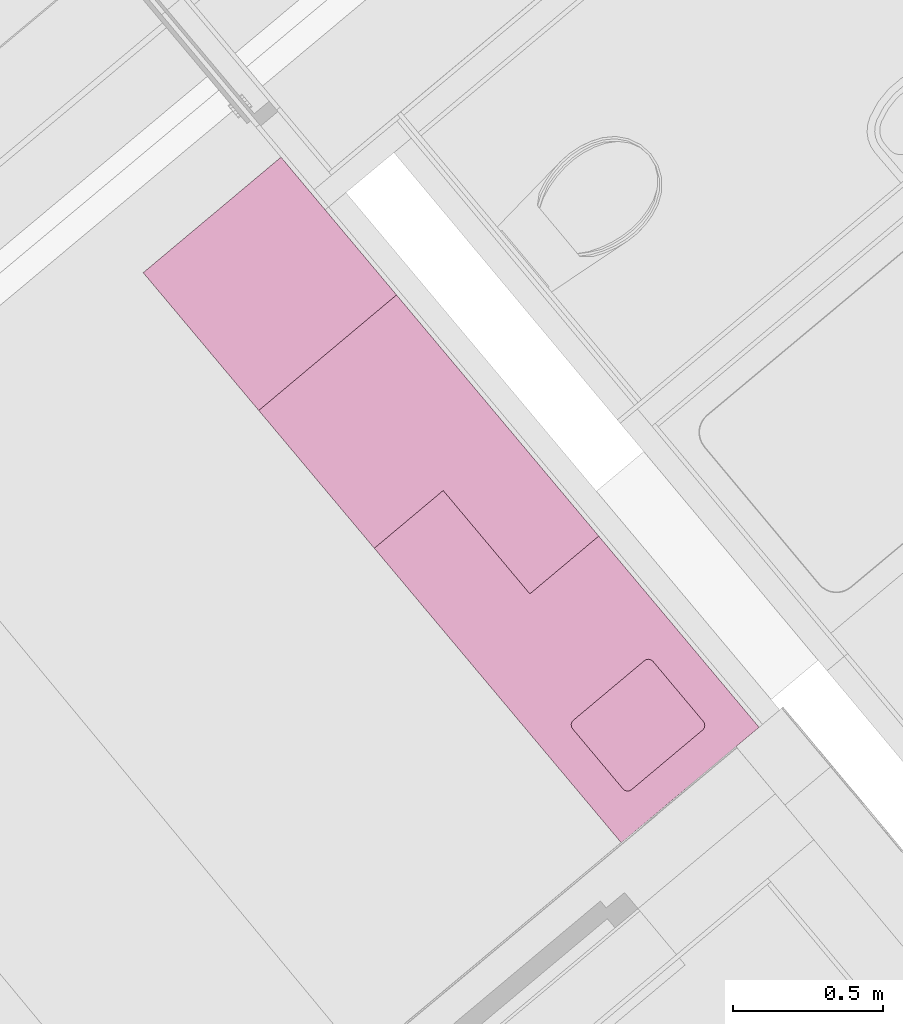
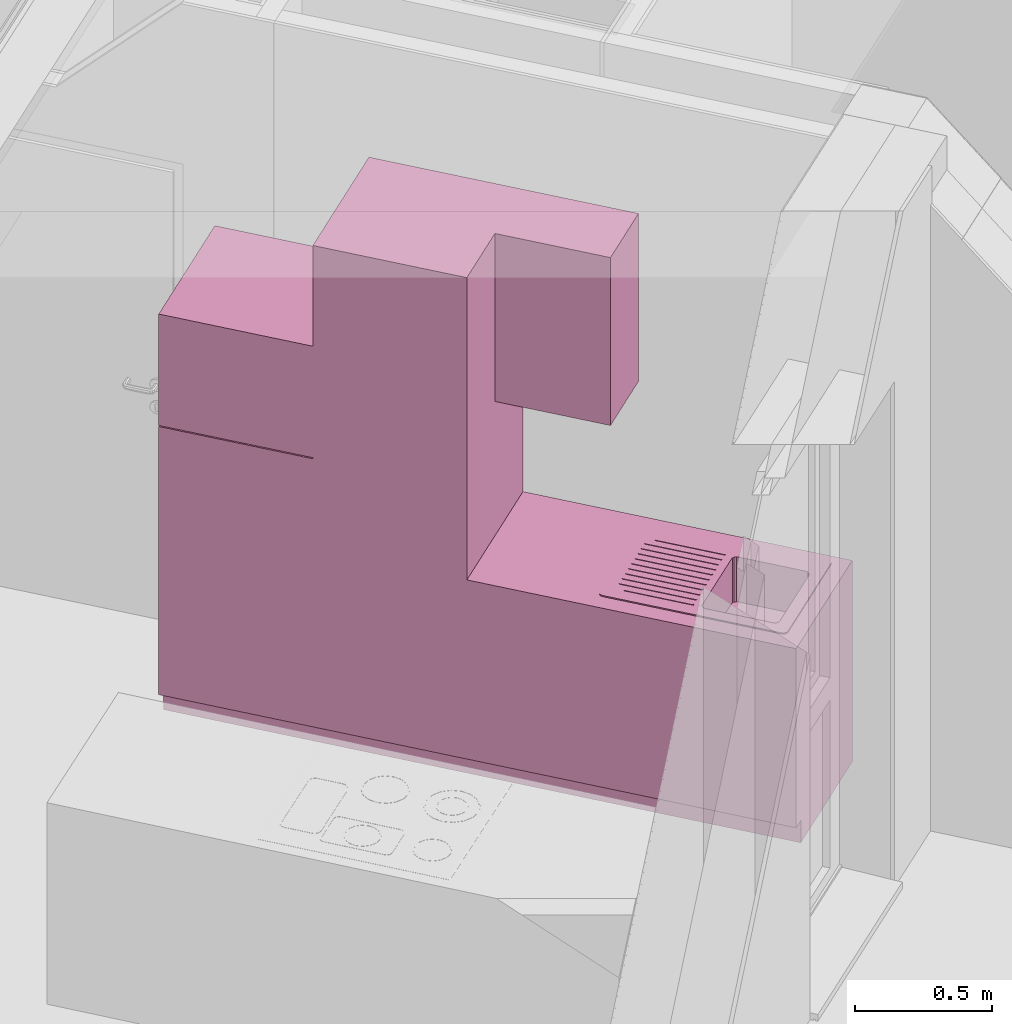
# One storey, part 50 of 50: 1 furniture element.
"""IFC4 building model written with IfcOpenShell, lengths in metres."""

from ifc_helpers import new_model, entity, si_unit, converted_unit, derived_unit, direction, frame, origin_with_axes, place, context, subcontext, project, spatial, polygons, type_object, element, save


model = new_model("IFC4")

# Units and contexts
model_context = context("Model", 3, precision=1e-05, world=origin_with_axes(), true_north=direction((0.0, 1.0)))
body_context = subcontext(model_context, "Body", "Model", "MODEL_VIEW")
ifc_project = project(units=[si_unit("LENGTHUNIT", "METRE"), si_unit("AREAUNIT", "SQUARE_METRE"), si_unit("VOLUMEUNIT", "CUBIC_METRE"), converted_unit("PLANEANGLEUNIT", "DEGREE", entity("IfcPlaneAngleMeasure", 0.0174532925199), si_unit("PLANEANGLEUNIT", "RADIAN"), dimensions=[0, 0, 0, 0, 0, 0, 0]), converted_unit("TIMEUNIT", "Year", entity("IfcTimeMeasure", 31556926.0), si_unit("TIMEUNIT", "SECOND"), dimensions=[0, 0, 1, 0, 0, 0, 0]), si_unit("MASSUNIT", "GRAM", prefix="KILO"), si_unit("THERMODYNAMICTEMPERATUREUNIT", "DEGREE_CELSIUS"), si_unit("LUMINOUSINTENSITYUNIT", "LUMEN"), si_unit("ENERGYUNIT", "JOULE", prefix="MEGA"), derived_unit("THERMALCONDUCTANCEUNIT", [(si_unit("POWERUNIT", "WATT"), 1), (si_unit("LENGTHUNIT", "METRE"), -1), (si_unit("THERMODYNAMICTEMPERATUREUNIT", "KELVIN"), -1)]), derived_unit("SPECIFICHEATCAPACITYUNIT", [(si_unit("ENERGYUNIT", "JOULE"), 1), (si_unit("MASSUNIT", "GRAM", prefix="KILO"), -1), (si_unit("THERMODYNAMICTEMPERATUREUNIT", "KELVIN"), -1)]), derived_unit("MASSDENSITYUNIT", [(si_unit("MASSUNIT", "GRAM", prefix="KILO"), 1), (si_unit("VOLUMEUNIT", "CUBIC_METRE"), -1)])], contexts=[model_context])

# Site, building, storey, space
site_placement = place(None, frame((-0.00153261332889, -0.00661245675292, 0.0), z_axis=(0.0, 0.0, 1.0), x_axis=(1.0, 0.0, 0.0)))
site = spatial("IfcSite", under=ifc_project, at=site_placement, Name="Gelände", CompositionType="ELEMENT")
building_placement = place(site_placement, origin_with_axes())
building = spatial("IfcBuilding", under=site, at=building_placement, Name="Gebäude", CompositionType="ELEMENT")
storey_placement = place(building_placement, frame((0.0, 0.0, 8.66), z_axis=(0.0, 0.0, 1.0), x_axis=(1.0, 0.0, 0.0)))
storey = spatial("IfcBuildingStorey", under=building, at=storey_placement, Name="DG2", CompositionType="ELEMENT", Elevation=8.66)
space_placement = place(storey_placement, frame((-3.1056460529, 21.2099336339, 0.22), z_axis=(0.0, 0.0, 1.0), x_axis=(-0.767365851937, -0.641209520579, 0.0)))
space = spatial("IfcSpace", under=storey, at=space_placement, CompositionType="ELEMENT", PredefinedType="NOTDEFINED")

# Furniture
furniture_type = type_object("IfcFurnitureType", Name="Konzeptküche 26", AssemblyPlace="NOTDEFINED", PredefinedType="NOTDEFINED")
furniture_placement = place(space_placement, frame((-2.13344483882, 3.826527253, 0.0), z_axis=(0.0, 0.0, 1.0), x_axis=(0.00175145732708, -0.999998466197, 0.0)))
element("IfcFurniture", 1, at=furniture_placement, inside=space, type_object=furniture_type, Name="Objekt-0002", PredefinedType="NOTDEFINED", context=body_context, shape_type="Tessellation", body=[
    polygons([(-0.968323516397, 0.0, 0.0), (-0.968323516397, 0.0, 0.1), (-2.25087457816, 0.0, 0.1), (-2.25087457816, 0.0, 0.0), (-0.968323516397, 0.55, 0.0), (-0.968323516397, 0.55, 0.1), (-2.25087457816, 0.55, 0.1), (-2.25087457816, 0.55, 0.0)], [[[1, 2, 3, 4]], [[5, 6, 2, 1]], [[2, 6, 7, 3]], [[4, 3, 7, 8]], [[1, 4, 8, 5]], [[8, 7, 6, 5]]], closed=True),
    polygons([(-0.968323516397, 0.6, 0.85), (-0.968323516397, 0.0, 0.85), (-2.25087457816, 0.0, 0.85), (-2.25087457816, 0.6, 0.85), (-1.47757109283, 0.0549999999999, 0.85), (-1.47757109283, 0.505, 0.85), (-2.16180630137, 0.505, 0.85), (-2.16180630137, 0.0549999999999, 0.85), (-0.968323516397, 0.6, 0.9), (-0.968323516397, 0.0, 0.9), (-2.25087457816, 0.0, 0.9), (-2.25087457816, 0.6, 0.9), (-1.47757109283, 0.505, 0.9), (-1.47757109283, 0.0549999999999, 0.9), (-2.16180630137, 0.505, 0.9), (-2.16180630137, 0.0549999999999, 0.9)], [[[1, 2, 3, 4], [5, 6, 7, 8]], [[2, 1, 9, 10]], [[3, 2, 10, 11]], [[4, 3, 11, 12]], [[1, 4, 12, 9]], [[13, 6, 5, 14]], [[15, 7, 6, 13]], [[16, 8, 7, 15]], [[14, 5, 8, 16]], [[11, 10, 9, 12], [14, 16, 15, 13]]], closed=True),
    polygons([(-0.968323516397, 0.6, 0.1), (-0.968323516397, 0.0, 0.1), (-2.25087457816, 0.0, 0.1), (-2.25087457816, 0.6, 0.1), (-1.47757109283, 0.0549999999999, 0.1), (-1.47757109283, 0.505, 0.1), (-2.16180630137, 0.505, 0.1), (-2.16180630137, 0.0549999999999, 0.1), (-0.968323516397, 0.6, 0.85), (-0.968323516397, 0.0, 0.85), (-2.25087457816, 0.0, 0.85), (-2.25087457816, 0.6, 0.85), (-1.47757109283, 0.505, 0.85), (-1.47757109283, 0.0549999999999, 0.85), (-2.16180630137, 0.505, 0.85), (-2.16180630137, 0.0549999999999, 0.85)], [[[1, 2, 3, 4], [5, 6, 7, 8]], [[2, 1, 9, 10]], [[3, 2, 10, 11]], [[4, 3, 11, 12]], [[1, 4, 12, 9]], [[13, 6, 5, 14]], [[15, 7, 6, 13]], [[16, 8, 7, 15]], [[14, 5, 8, 16]], [[11, 10, 9, 12], [14, 16, 15, 13]]], closed=True),
    polygons([(-0.968323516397, 0.0, 1.5), (-0.968323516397, 0.0, 2.25), (-1.4183235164, 0.0, 2.25), (-1.4183235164, 0.0, 1.5), (-0.968323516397, 0.3, 1.5), (-0.968323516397, 0.3, 2.25), (-1.4183235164, 0.3, 2.25), (-1.4183235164, 0.3, 1.5)], [[[1, 2, 3, 4]], [[5, 6, 2, 1]], [[2, 6, 7, 3]], [[4, 3, 7, 8]], [[1, 4, 8, 5]], [[8, 7, 6, 5]]], closed=True),
    polygons([(-0.368323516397, 0.52, 0.0), (-0.368323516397, 0.52, 0.1), (-0.368323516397, 0.55, 0.1), (-0.368323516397, 0.55, 0.0), (0.231676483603, 0.52, 0.0), (0.231676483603, 0.52, 0.1), (0.231676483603, 0.55, 0.1), (0.231676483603, 0.55, 0.0)], [[[1, 2, 3, 4]], [[5, 6, 2, 1]], [[2, 6, 7, 3]], [[4, 3, 7, 8]], [[1, 4, 8, 5]], [[8, 7, 6, 5]]], closed=True),
    polygons([(-0.368323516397, 0.52, 0.0), (-0.368323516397, 0.52, 1.8), (0.231676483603, 0.52, 1.8), (0.231676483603, 0.52, 0.0), (-0.368323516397, 0.0, 0.0), (-0.368323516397, 0.0, 1.8), (0.231676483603, 0.0, 1.8), (0.231676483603, 0.0, 0.0)], [[[1, 2, 3, 4]], [[5, 6, 2, 1]], [[2, 6, 7, 3]], [[4, 3, 7, 8]], [[1, 4, 8, 5]], [[8, 7, 6, 5]]], closed=True),
    polygons([(-0.368323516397, 0.5199, 0.1), (-0.368323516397, 0.5199, 1.2975), (-0.368323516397, 0.6, 1.2975), (-0.368323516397, 0.6, 0.1), (0.231676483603, 0.5199, 0.1), (0.231676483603, 0.5199, 1.2975), (0.231676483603, 0.6, 1.2975), (0.231676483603, 0.6, 0.1)], [[[1, 2, 3, 4]], [[5, 6, 2, 1]], [[2, 6, 7, 3]], [[4, 3, 7, 8]], [[1, 4, 8, 5]], [[8, 7, 6, 5]]], closed=True),
    polygons([(-0.368323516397, 0.5199, 1.3025), (-0.368323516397, 0.5199, 1.8), (-0.368323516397, 0.6, 1.8), (-0.368323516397, 0.6, 1.3025), (0.231676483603, 0.5199, 1.3025), (0.231676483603, 0.5199, 1.8), (0.231676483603, 0.6, 1.8), (0.231676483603, 0.6, 1.3025)], [[[1, 2, 3, 4]], [[5, 6, 2, 1]], [[2, 6, 7, 3]], [[4, 3, 7, 8]], [[1, 4, 8, 5]], [[8, 7, 6, 5]]], closed=True),
    polygons([(-2.11680630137, 0.48, 0.705), (-2.11680630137, 0.48, 0.9), (-1.8546886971, 0.48, 0.9), (-1.8546886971, 0.48, 0.705), (-2.12445997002, 0.47847759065, 0.705), (-2.12445997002, 0.47847759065, 0.9), (-1.84703502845, 0.47847759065, 0.9), (-1.84703502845, 0.47847759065, 0.705), (-1.84054656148, 0.474142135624, 0.705), (-1.83621110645, 0.467653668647, 0.705), (-1.8346886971, 0.46, 0.705), (-1.8346886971, 0.15, 0.705), (-1.83621110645, 0.142346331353, 0.705), (-1.84054656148, 0.135857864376, 0.705), (-1.84703502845, 0.13152240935, 0.705), (-1.8546886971, 0.13, 0.705), (-2.11680630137, 0.13, 0.705), (-2.12445997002, 0.13152240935, 0.705), (-2.130948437, 0.135857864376, 0.705), (-2.13528389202, 0.142346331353, 0.705), (-2.13680630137, 0.15, 0.705), (-2.13680630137, 0.46, 0.705), (-2.13528389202, 0.467653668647, 0.705), (-2.130948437, 0.474142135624, 0.705), (-2.130948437, 0.474142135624, 0.9), (-1.84054656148, 0.474142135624, 0.9), (-1.83621110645, 0.467653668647, 0.9), (-1.8346886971, 0.46, 0.9), (-1.8346886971, 0.15, 0.9), (-1.83621110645, 0.142346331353, 0.9), (-1.84054656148, 0.135857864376, 0.9), (-1.84703502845, 0.13152240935, 0.9), (-1.8546886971, 0.13, 0.9), (-2.11680630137, 0.13, 0.9), (-2.12445997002, 0.13152240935, 0.9), (-2.130948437, 0.135857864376, 0.9), (-2.13528389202, 0.142346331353, 0.9), (-2.13680630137, 0.15, 0.9), (-2.13680630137, 0.46, 0.9), (-2.13528389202, 0.467653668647, 0.9)], [[[1, 2, 3, 4]], [[5, 6, 2, 1]], [[4, 3, 7, 8]], [[1, 4, 8, 9, 10, 11, 12, 13, 14, 15, 16, 17, 18, 19, 20, 21, 22, 23, 24, 5]], [[24, 25, 6, 5]], [[8, 7, 26, 9]], [[9, 26, 27, 10]], [[10, 27, 28, 11]], [[11, 28, 29, 12]], [[12, 29, 30, 13]], [[13, 30, 31, 14]], [[14, 31, 32, 15]], [[15, 32, 33, 16]], [[16, 33, 34, 17]], [[17, 34, 35, 18]], [[18, 35, 36, 19]], [[19, 36, 37, 20]], [[20, 37, 38, 21]], [[21, 38, 39, 22]], [[22, 39, 40, 23]], [[23, 40, 25, 24]]], closed=False),
    polygons([(-2.16680630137, 0.53, 0.9), (-2.16680630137, 0.53, 0.905), (-1.47257109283, 0.53, 0.905), (-1.47257109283, 0.53, 0.9), (-2.17445997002, 0.52847759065, 0.9), (-2.17445997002, 0.52847759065, 0.905), (-2.180948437, 0.524142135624, 0.905), (-2.18528389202, 0.517653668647, 0.905), (-2.18680630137, 0.51, 0.905), (-2.18680630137, 0.0499999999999, 0.905), (-2.18528389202, 0.0423463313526, 0.905), (-2.180948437, 0.0358578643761, 0.905), (-2.17445997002, 0.0315224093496, 0.905), (-2.16680630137, 0.0299999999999, 0.905), (-1.47257109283, 0.0299999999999, 0.905), (-1.46491742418, 0.0315224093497, 0.905), (-1.45842895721, 0.0358578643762, 0.905), (-1.45409350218, 0.0423463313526, 0.905), (-1.45257109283, 0.0499999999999, 0.905), (-1.45257109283, 0.51, 0.905), (-1.45409350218, 0.517653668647, 0.905), (-1.45842895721, 0.524142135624, 0.905), (-1.46491742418, 0.52847759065, 0.905), (-2.11680630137, 0.48, 0.905), (-1.8546886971, 0.48, 0.905), (-1.84703502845, 0.47847759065, 0.905), (-1.84054656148, 0.474142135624, 0.905), (-1.83621110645, 0.467653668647, 0.905), (-1.8346886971, 0.46, 0.905), (-1.8346886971, 0.15, 0.905), (-1.83621110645, 0.142346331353, 0.905), (-1.84054656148, 0.135857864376, 0.905), (-1.84703502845, 0.13152240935, 0.905), (-1.8546886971, 0.13, 0.905), (-2.11680630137, 0.13, 0.905), (-2.12445997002, 0.13152240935, 0.905), (-2.130948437, 0.135857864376, 0.905), (-2.13528389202, 0.142346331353, 0.905), (-2.13680630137, 0.15, 0.905), (-2.13680630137, 0.46, 0.905), (-2.13528389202, 0.467653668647, 0.905), (-2.130948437, 0.474142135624, 0.905), (-2.12445997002, 0.47847759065, 0.905), (-1.46491742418, 0.52847759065, 0.9), (-1.45842895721, 0.524142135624, 0.9), (-1.45409350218, 0.517653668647, 0.9), (-1.45257109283, 0.51, 0.9), (-1.45257109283, 0.0499999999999, 0.9), (-1.45409350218, 0.0423463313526, 0.9), (-1.45842895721, 0.0358578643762, 0.9), (-1.46491742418, 0.0315224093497, 0.9), (-1.47257109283, 0.0299999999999, 0.9), (-2.16680630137, 0.0299999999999, 0.9), (-2.17445997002, 0.0315224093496, 0.9), (-2.180948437, 0.0358578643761, 0.9), (-2.18528389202, 0.0423463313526, 0.9), (-2.18680630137, 0.0499999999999, 0.9), (-2.18680630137, 0.51, 0.9), (-2.18528389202, 0.517653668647, 0.9), (-2.180948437, 0.524142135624, 0.9), (-2.11680630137, 0.48, 0.9), (-2.12445997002, 0.47847759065, 0.9), (-2.130948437, 0.474142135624, 0.9), (-2.13528389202, 0.467653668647, 0.9), (-2.13680630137, 0.46, 0.9), (-2.13680630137, 0.15, 0.9), (-2.13528389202, 0.142346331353, 0.9), (-2.130948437, 0.135857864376, 0.9), (-2.12445997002, 0.13152240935, 0.9), (-2.11680630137, 0.13, 0.9), (-1.8546886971, 0.13, 0.9), (-1.84703502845, 0.13152240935, 0.9), (-1.84054656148, 0.135857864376, 0.9), (-1.83621110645, 0.142346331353, 0.9), (-1.8346886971, 0.15, 0.9), (-1.8346886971, 0.46, 0.9), (-1.83621110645, 0.467653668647, 0.9), (-1.84054656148, 0.474142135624, 0.9), (-1.84703502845, 0.47847759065, 0.9), (-1.8546886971, 0.48, 0.9)], [[[1, 2, 3, 4]], [[5, 6, 2, 1]], [[2, 6, 7, 8, 9, 10, 11, 12, 13, 14, 15, 16, 17, 18, 19, 20, 21, 22, 23, 3], [24, 25, 26, 27, 28, 29, 30, 31, 32, 33, 34, 35, 36, 37, 38, 39, 40, 41, 42, 43]], [[4, 3, 23, 44]], [[1, 4, 44, 45, 46, 47, 48, 49, 50, 51, 52, 53, 54, 55, 56, 57, 58, 59, 60, 5], [61, 62, 63, 64, 65, 66, 67, 68, 69, 70, 71, 72, 73, 74, 75, 76, 77, 78, 79, 80]], [[60, 7, 6, 5]], [[59, 8, 7, 60]], [[58, 9, 8, 59]], [[57, 10, 9, 58]], [[56, 11, 10, 57]], [[55, 12, 11, 56]], [[54, 13, 12, 55]], [[53, 14, 13, 54]], [[52, 15, 14, 53]], [[51, 16, 15, 52]], [[50, 17, 16, 51]], [[49, 18, 17, 50]], [[48, 19, 18, 49]], [[47, 20, 19, 48]], [[46, 21, 20, 47]], [[45, 22, 21, 46]], [[44, 23, 22, 45]], [[80, 25, 24, 61]], [[79, 26, 25, 80]], [[78, 27, 26, 79]], [[77, 28, 27, 78]], [[76, 29, 28, 77]], [[75, 30, 29, 76]], [[74, 31, 30, 75]], [[73, 32, 31, 74]], [[72, 33, 32, 73]], [[71, 34, 33, 72]], [[70, 35, 34, 71]], [[69, 36, 35, 70]], [[68, 37, 36, 69]], [[67, 38, 37, 68]], [[66, 39, 38, 67]], [[65, 40, 39, 66]], [[64, 41, 40, 65]], [[63, 42, 41, 64]], [[62, 43, 42, 63]], [[61, 24, 43, 62]]], closed=True),
    polygons([(-1.8046886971, 0.475, 0.905), (-1.8046886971, 0.475, 0.907), (-1.53257109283, 0.475, 0.907), (-1.53257109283, 0.475, 0.905), (-1.8046886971, 0.47, 0.905), (-1.8046886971, 0.47, 0.907), (-1.53257109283, 0.47, 0.907), (-1.53257109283, 0.47, 0.905)], [[[1, 2, 3, 4]], [[5, 6, 2, 1]], [[2, 6, 7, 3]], [[4, 3, 7, 8]], [[1, 4, 8, 5]], [[8, 7, 6, 5]]], closed=True),
    polygons([(-1.8046886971, 0.441, 0.905), (-1.8046886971, 0.441, 0.907), (-1.50257109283, 0.441, 0.907), (-1.50257109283, 0.441, 0.905), (-1.8046886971, 0.436, 0.905), (-1.8046886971, 0.436, 0.907), (-1.50257109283, 0.436, 0.907), (-1.50257109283, 0.436, 0.905)], [[[1, 2, 3, 4]], [[5, 6, 2, 1]], [[2, 6, 7, 3]], [[4, 3, 7, 8]], [[1, 4, 8, 5]], [[8, 7, 6, 5]]], closed=True),
    polygons([(-1.8046886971, 0.407, 0.905), (-1.8046886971, 0.407, 0.907), (-1.50257109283, 0.407, 0.907), (-1.50257109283, 0.407, 0.905), (-1.8046886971, 0.402, 0.905), (-1.8046886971, 0.402, 0.907), (-1.50257109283, 0.402, 0.907), (-1.50257109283, 0.402, 0.905)], [[[1, 2, 3, 4]], [[5, 6, 2, 1]], [[2, 6, 7, 3]], [[4, 3, 7, 8]], [[1, 4, 8, 5]], [[8, 7, 6, 5]]], closed=True),
    polygons([(-1.8046886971, 0.373, 0.905), (-1.8046886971, 0.373, 0.907), (-1.50257109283, 0.373, 0.907), (-1.50257109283, 0.373, 0.905), (-1.8046886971, 0.368, 0.905), (-1.8046886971, 0.368, 0.907), (-1.50257109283, 0.368, 0.907), (-1.50257109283, 0.368, 0.905)], [[[1, 2, 3, 4]], [[5, 6, 2, 1]], [[2, 6, 7, 3]], [[4, 3, 7, 8]], [[1, 4, 8, 5]], [[8, 7, 6, 5]]], closed=True),
    polygons([(-1.8046886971, 0.339, 0.905), (-1.8046886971, 0.339, 0.907), (-1.50257109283, 0.339, 0.907), (-1.50257109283, 0.339, 0.905), (-1.8046886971, 0.334, 0.905), (-1.8046886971, 0.334, 0.907), (-1.50257109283, 0.334, 0.907), (-1.50257109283, 0.334, 0.905)], [[[1, 2, 3, 4]], [[5, 6, 2, 1]], [[2, 6, 7, 3]], [[4, 3, 7, 8]], [[1, 4, 8, 5]], [[8, 7, 6, 5]]], closed=True),
    polygons([(-1.8046886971, 0.305, 0.905), (-1.8046886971, 0.305, 0.907), (-1.50257109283, 0.305, 0.907), (-1.50257109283, 0.305, 0.905), (-1.8046886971, 0.3, 0.905), (-1.8046886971, 0.3, 0.907), (-1.50257109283, 0.3, 0.907), (-1.50257109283, 0.3, 0.905)], [[[1, 2, 3, 4]], [[5, 6, 2, 1]], [[2, 6, 7, 3]], [[4, 3, 7, 8]], [[1, 4, 8, 5]], [[8, 7, 6, 5]]], closed=True),
    polygons([(-1.8046886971, 0.271, 0.905), (-1.8046886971, 0.271, 0.907), (-1.50257109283, 0.271, 0.907), (-1.50257109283, 0.271, 0.905), (-1.8046886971, 0.266, 0.905), (-1.8046886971, 0.266, 0.907), (-1.50257109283, 0.266, 0.907), (-1.50257109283, 0.266, 0.905)], [[[1, 2, 3, 4]], [[5, 6, 2, 1]], [[2, 6, 7, 3]], [[4, 3, 7, 8]], [[1, 4, 8, 5]], [[8, 7, 6, 5]]], closed=True),
    polygons([(-1.8046886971, 0.237, 0.905), (-1.8046886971, 0.237, 0.907), (-1.50257109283, 0.237, 0.907), (-1.50257109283, 0.237, 0.905), (-1.8046886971, 0.232, 0.905), (-1.8046886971, 0.232, 0.907), (-1.50257109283, 0.232, 0.907), (-1.50257109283, 0.232, 0.905)], [[[1, 2, 3, 4]], [[5, 6, 2, 1]], [[2, 6, 7, 3]], [[4, 3, 7, 8]], [[1, 4, 8, 5]], [[8, 7, 6, 5]]], closed=True),
    polygons([(-1.8046886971, 0.203, 0.905), (-1.8046886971, 0.203, 0.907), (-1.50257109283, 0.203, 0.907), (-1.50257109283, 0.203, 0.905), (-1.8046886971, 0.198, 0.905), (-1.8046886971, 0.198, 0.907), (-1.50257109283, 0.198, 0.907), (-1.50257109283, 0.198, 0.905)], [[[1, 2, 3, 4]], [[5, 6, 2, 1]], [[2, 6, 7, 3]], [[4, 3, 7, 8]], [[1, 4, 8, 5]], [[8, 7, 6, 5]]], closed=True),
    polygons([(-1.8046886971, 0.169, 0.905), (-1.8046886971, 0.169, 0.907), (-1.50257109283, 0.169, 0.907), (-1.50257109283, 0.169, 0.905), (-1.8046886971, 0.164, 0.905), (-1.8046886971, 0.164, 0.907), (-1.50257109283, 0.164, 0.907), (-1.50257109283, 0.164, 0.905)], [[[1, 2, 3, 4]], [[5, 6, 2, 1]], [[2, 6, 7, 3]], [[4, 3, 7, 8]], [[1, 4, 8, 5]], [[8, 7, 6, 5]]], closed=True),
    polygons([(-1.8046886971, 0.135, 0.905), (-1.8046886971, 0.135, 0.907), (-1.53257109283, 0.135, 0.907), (-1.53257109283, 0.135, 0.905), (-1.8046886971, 0.13, 0.905), (-1.8046886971, 0.13, 0.907), (-1.53257109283, 0.13, 0.907), (-1.53257109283, 0.13, 0.905)], [[[1, 2, 3, 4]], [[5, 6, 2, 1]], [[2, 6, 7, 3]], [[4, 3, 7, 8]], [[1, 4, 8, 5]], [[8, 7, 6, 5]]], closed=True),
    polygons([(-0.968323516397, 0.55, 0.0), (-0.968323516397, 0.55, 0.1), (-0.368323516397, 0.55, 0.1), (-0.368323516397, 0.55, 0.0), (-0.968323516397, 0.0, 0.0), (-0.968323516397, 0.0, 0.1), (-0.368323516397, 0.0, 0.1), (-0.368323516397, 0.0, 0.0)], [[[1, 2, 3, 4]], [[5, 6, 2, 1]], [[2, 6, 7, 3]], [[4, 3, 7, 8]], [[1, 4, 8, 5]], [[8, 7, 6, 5]]], closed=True),
    polygons([(-0.968323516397, 0.6, 0.1), (-0.968323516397, 0.6, 2.25), (-0.368323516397, 0.6, 2.25), (-0.368323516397, 0.6, 0.1), (-0.968323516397, 0.0, 0.1), (-0.968323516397, 0.0, 2.25), (-0.368323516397, 0.0, 2.25), (-0.368323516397, 0.0, 0.1)], [[[1, 2, 3, 4]], [[5, 6, 2, 1]], [[2, 6, 7, 3]], [[4, 3, 7, 8]], [[1, 4, 8, 5]], [[8, 7, 6, 5]]], closed=True),
])

save(model, "model.ifc")
